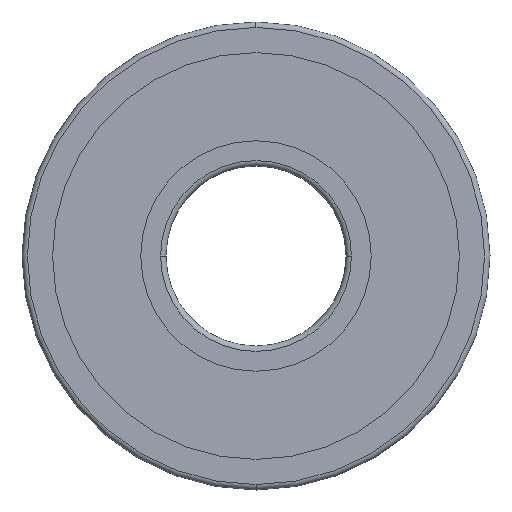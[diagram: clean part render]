
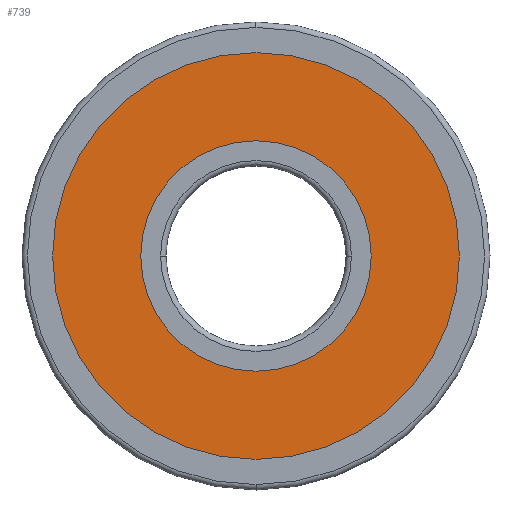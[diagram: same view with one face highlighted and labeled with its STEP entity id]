
A CAD part, left-side view. The second image highlights one B-rep face of the part: STEP entity #739.
In plain terms, the highlighted planar face has unit normal (-1, 0, 0) as drawn and (1, 0, 0) by its records, which use the part's own axes.
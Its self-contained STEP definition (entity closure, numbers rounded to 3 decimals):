
#6 = EDGE_CURVE ( 'NONE', #2322, #2368, #1720, .T. ) ;
#64 = VERTEX_POINT ( 'NONE', #2487 ) ;
#168 = EDGE_CURVE ( 'NONE', #64, #1618, #1674, .T. ) ;
#288 = CARTESIAN_POINT ( 'NONE',  ( 0.276, 0., 0. ) ) ;
#380 = FACE_BOUND ( 'NONE', #1669, .T. ) ;
#392 = DIRECTION ( 'NONE',  ( 0., 0., -1. ) ) ;
#406 = CARTESIAN_POINT ( 'NONE',  ( 0.276, 6.4, 0. ) ) ;
#554 = CARTESIAN_POINT ( 'NONE',  ( 0.276, 0., 0. ) ) ;
#657 = AXIS2_PLACEMENT_3D ( 'NONE', #2030, #2506, #816 ) ;
#698 = EDGE_CURVE ( 'NONE', #2368, #2322, #2480, .T. ) ;
#705 = DIRECTION ( 'NONE',  ( 1., 0., 0. ) ) ;
#739 = ADVANCED_FACE ( 'NONE', ( #1580, #380 ), #2244, .T. ) ;
#755 = CARTESIAN_POINT ( 'NONE',  ( 0.276, 0., 0. ) ) ;
#758 = DIRECTION ( 'NONE',  ( 0., 0., -1. ) ) ;
#784 = DIRECTION ( 'NONE',  ( 1., 0., 0. ) ) ;
#816 = DIRECTION ( 'NONE',  ( 0., 0., -1. ) ) ;
#855 = CARTESIAN_POINT ( 'NONE',  ( 0.276, 0., -6.4 ) ) ;
#990 = ORIENTED_EDGE ( 'NONE', *, *, #1119, .T. ) ;
#1119 = EDGE_CURVE ( 'NONE', #1618, #64, #1816, .T. ) ;
#1234 = AXIS2_PLACEMENT_3D ( 'NONE', #554, #2635, #758 ) ;
#1381 = AXIS2_PLACEMENT_3D ( 'NONE', #288, #705, #2407 ) ;
#1412 = ORIENTED_EDGE ( 'NONE', *, *, #6, .F. ) ;
#1580 = FACE_OUTER_BOUND ( 'NONE', #1748, .T. ) ;
#1618 = VERTEX_POINT ( 'NONE', #2207 ) ;
#1669 = EDGE_LOOP ( 'NONE', ( #1412, #2409 ) ) ;
#1674 = CIRCLE ( 'NONE', #1924, 11.3 ) ;
#1720 = CIRCLE ( 'NONE', #1234, 6.4 ) ;
#1748 = EDGE_LOOP ( 'NONE', ( #990, #1909 ) ) ;
#1758 = DIRECTION ( 'NONE',  ( 0., 0., -1. ) ) ;
#1816 = CIRCLE ( 'NONE', #657, 11.3 ) ;
#1860 = CARTESIAN_POINT ( 'NONE',  ( 0.276, 0., 6.4 ) ) ;
#1909 = ORIENTED_EDGE ( 'NONE', *, *, #168, .T. ) ;
#1924 = AXIS2_PLACEMENT_3D ( 'NONE', #755, #784, #1758 ) ;
#2030 = CARTESIAN_POINT ( 'NONE',  ( 0.276, 0., 0. ) ) ;
#2207 = CARTESIAN_POINT ( 'NONE',  ( 0.276, 0., -11.3 ) ) ;
#2244 = PLANE ( 'NONE',  #2649 ) ;
#2322 = VERTEX_POINT ( 'NONE', #855 ) ;
#2368 = VERTEX_POINT ( 'NONE', #1860 ) ;
#2407 = DIRECTION ( 'NONE',  ( 0., 0., -1. ) ) ;
#2409 = ORIENTED_EDGE ( 'NONE', *, *, #698, .F. ) ;
#2416 = DIRECTION ( 'NONE',  ( 1., 0., 0. ) ) ;
#2480 = CIRCLE ( 'NONE', #1381, 6.4 ) ;
#2487 = CARTESIAN_POINT ( 'NONE',  ( 0.276, 0., 11.3 ) ) ;
#2506 = DIRECTION ( 'NONE',  ( 1., 0., 0. ) ) ;
#2635 = DIRECTION ( 'NONE',  ( 1., 0., 0. ) ) ;
#2649 = AXIS2_PLACEMENT_3D ( 'NONE', #406, #2416, #392 ) ;
